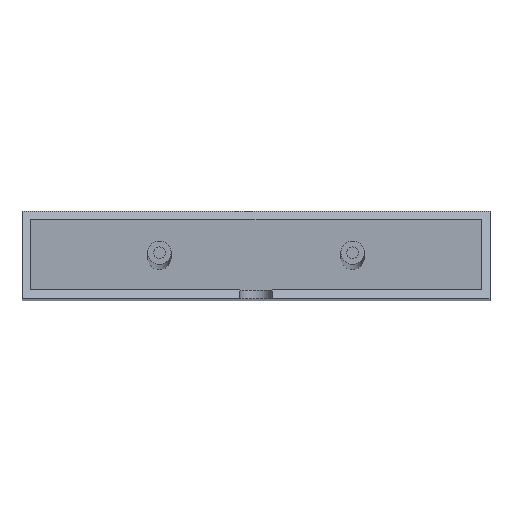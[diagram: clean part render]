
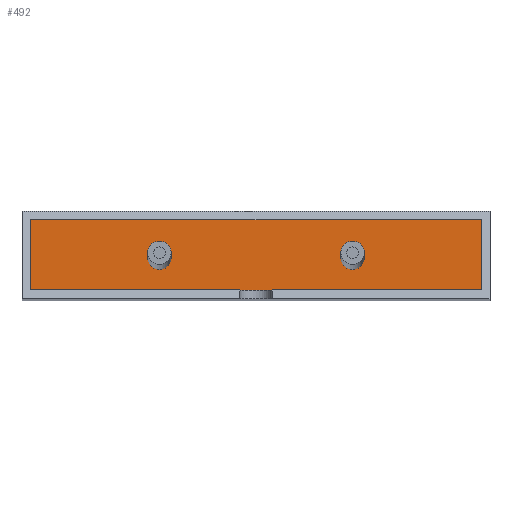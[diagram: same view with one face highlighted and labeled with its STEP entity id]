
A CAD part, top view. The second image highlights one B-rep face of the part: STEP entity #492.
In plain terms, the highlighted planar face has unit normal (0, 0, 1).
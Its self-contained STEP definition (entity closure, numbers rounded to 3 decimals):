
#16=LINE($,#723,#66);
#17=LINE($,#725,#67);
#18=LINE($,#727,#68);
#19=LINE($,#728,#69);
#66=VECTOR($,#596,77.);
#67=VECTOR($,#597,12.);
#68=VECTOR($,#598,77.);
#69=VECTOR($,#599,12.);
#117=PLANE($,#531);
#142=FACE_BOUND($,#185,.T.);
#143=FACE_BOUND($,#186,.T.);
#144=FACE_BOUND($,#187,.T.);
#185=EDGE_LOOP($,(#342));
#186=EDGE_LOOP($,(#343));
#187=EDGE_LOOP($,(#344,#345,#346,#347));
#209=CIRCLE($,#520,2.);
#213=CIRCLE($,#528,2.);
#221=VERTEX_POINT($,#696);
#225=VERTEX_POINT($,#708);
#230=VERTEX_POINT($,#721);
#231=VERTEX_POINT($,#722);
#232=VERTEX_POINT($,#724);
#233=VERTEX_POINT($,#726);
#265=EDGE_CURVE($,#221,#221,#209,.T.);
#269=EDGE_CURVE($,#225,#225,#213,.T.);
#274=EDGE_CURVE($,#230,#231,#16,.T.);
#275=EDGE_CURVE($,#232,#230,#17,.T.);
#276=EDGE_CURVE($,#233,#232,#18,.T.);
#277=EDGE_CURVE($,#231,#233,#19,.T.);
#342=ORIENTED_EDGE($,*,*,#265,.T.);
#343=ORIENTED_EDGE($,*,*,#269,.T.);
#344=ORIENTED_EDGE($,*,*,#274,.F.);
#345=ORIENTED_EDGE($,*,*,#275,.F.);
#346=ORIENTED_EDGE($,*,*,#276,.F.);
#347=ORIENTED_EDGE($,*,*,#277,.F.);
#492=ADVANCED_FACE($,(#142,#143,#144),#117,.T.);
#520=AXIS2_PLACEMENT_3D($,#697,#568,#569);
#528=AXIS2_PLACEMENT_3D($,#709,#584,#585);
#531=AXIS2_PLACEMENT_3D($,#720,#594,#595);
#568=DIRECTION('center_axis',(0.,0.,
-1.));
#569=DIRECTION('ref_axis',(-1.,0.,0.));
#584=DIRECTION('center_axis',(0.,0.,
-1.));
#585=DIRECTION('ref_axis',(-1.,0.,0.));
#594=DIRECTION('center_axis',(0.,0.,
1.));
#595=DIRECTION('ref_axis',(1.,0.,0.));
#596=DIRECTION($,(1.,0.,0.));
#597=DIRECTION($,(0.,1.,0.));
#598=DIRECTION($,(-1.,0.,0.));
#599=DIRECTION($,(0.,-1.,0.));
#696=CARTESIAN_POINT('',(-8.078,3.909,99.621));
#697=CARTESIAN_POINT('Origin',(-10.078,3.909,99.621));
#708=CARTESIAN_POINT('',(24.922,3.909,99.621));
#709=CARTESIAN_POINT('Origin',(22.922,3.909,99.621));
#720=CARTESIAN_POINT('Origin',(6.422,4.409,99.621));
#721=CARTESIAN_POINT('',(-32.078,10.409,99.621));
#722=CARTESIAN_POINT('',(44.922,10.409,99.621));
#723=CARTESIAN_POINT($,(26.422,10.409,99.621));
#724=CARTESIAN_POINT('',(-32.078,-1.591,99.621));
#725=CARTESIAN_POINT($,(-32.078,8.159,99.621));
#726=CARTESIAN_POINT('',(44.922,-1.591,99.621));
#727=CARTESIAN_POINT($,(-13.578,-1.591,99.621));
#728=CARTESIAN_POINT($,(44.922,0.659,99.621));
